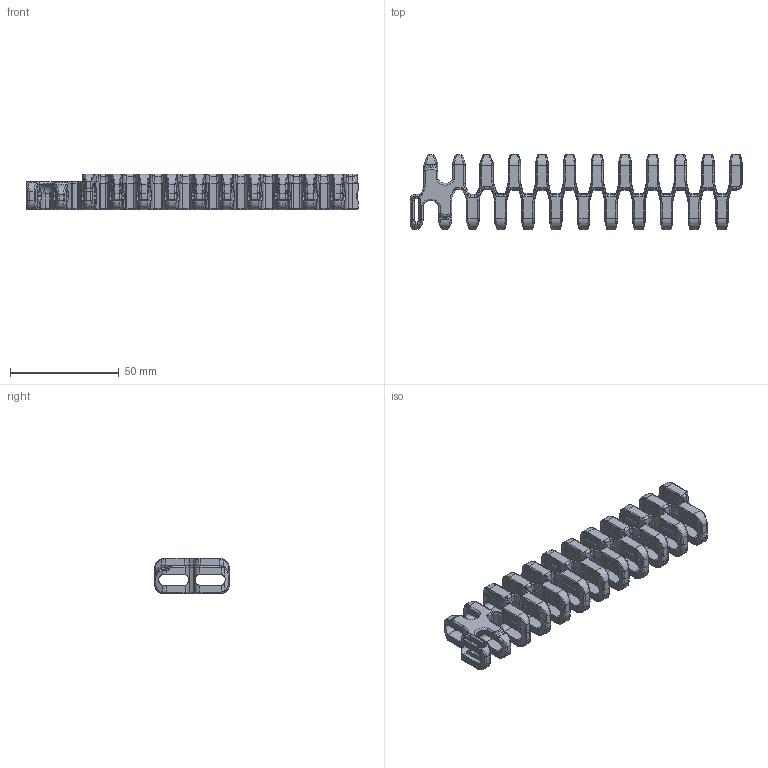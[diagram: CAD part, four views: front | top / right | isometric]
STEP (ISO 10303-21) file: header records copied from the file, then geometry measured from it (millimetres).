
FILE_DESCRIPTION((''),'2;1');
FILE_NAME('K65','2012-10-01T',('mth'),(''),'PRO/ENGINEER BY PARAMETRIC TECHNOLOGY CORPORATION, 2012230','PRO/ENGINEER BY PARAMETRIC TECHNOLOGY CORPORATION, 2012230','');
FILE_SCHEMA(('AUTOMOTIVE_DESIGN { 1 0 10303 214 1 1 1 1 }'));
Products named in the file (1): K65
Bounding box: 152.3 x 34.7 x 16.5 mm (x, y, z)
Volume: 24863.9 mm3; surface area: 21528.6 mm2
Topology: 1 solids, 1 shells, 2650 faces, 6763 edges, 4085 vertices
Faces by surface type: plane 850, cylinder 727, bspline 584, torus 324, cone 161, sphere 4
Entity records: 147855 total; most frequent: CARTESIAN_POINT 88246, ORIENTED_EDGE 13526, DIRECTION 11045, EDGE_CURVE 6763, VERTEX_POINT 4085, AXIS2_PLACEMENT_3D 4046, VECTOR 2953, LINE 2953
